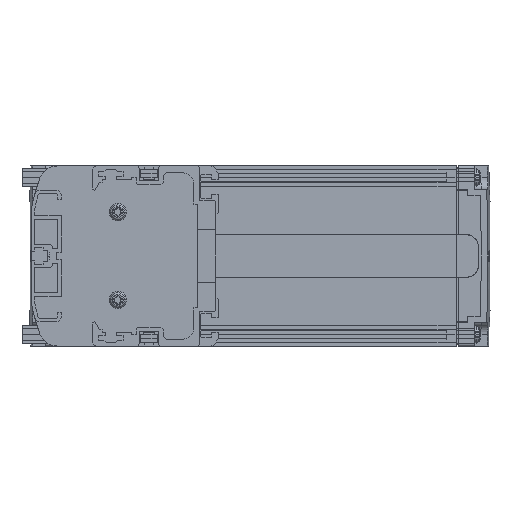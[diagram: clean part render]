
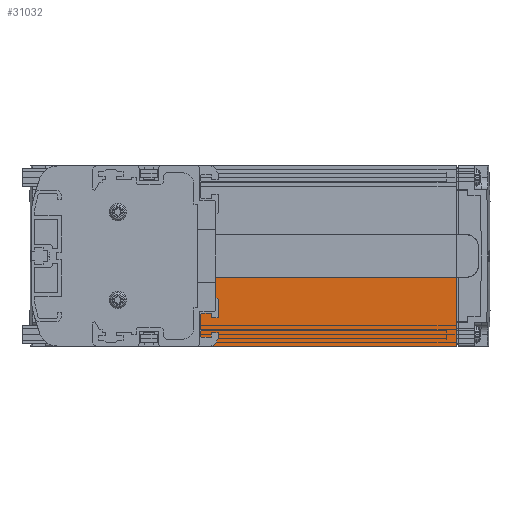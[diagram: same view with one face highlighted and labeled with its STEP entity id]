
A CAD part, left-side view. The second image highlights one B-rep face of the part: STEP entity #31032.
In plain terms, the highlighted planar face has unit normal (-1, 0, 0).
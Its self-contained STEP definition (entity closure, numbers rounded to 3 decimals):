
#3726=DIRECTION('',(0.,0.,1.));
#3727=VECTOR('',#3726,13.9);
#3728=CARTESIAN_POINT('',(3.,1.,-23.));
#3729=LINE('',#3728,#3727);
#4450=CARTESIAN_POINT('',(3.,2.,-23.));
#4451=DIRECTION('',(-1.,0.,0.));
#4452=DIRECTION('',(0.,0.,-1.));
#4453=AXIS2_PLACEMENT_3D('',#4450,#4451,#4452);
#4463=DIRECTION('',(0.,0.,1.));
#4464=VECTOR('',#4463,29.9);
#4465=CARTESIAN_POINT('',(3.,-103.,-39.));
#4466=LINE('',#4465,#4464);
#4483=DIRECTION('',(0.,1.,0.));
#4484=VECTOR('',#4483,104.);
#4485=CARTESIAN_POINT('',(3.,-103.,-9.1));
#4486=LINE('',#4485,#4484);
#8747=DIRECTION('',(0.,1.,0.));
#8748=VECTOR('',#8747,112.);
#8749=CARTESIAN_POINT('',(3.,-103.,-39.));
#8750=LINE('',#8749,#8748);
#9942=CARTESIAN_POINT('',(3.,9.,-38.));
#9943=DIRECTION('',(-1.,0.,0.));
#9944=DIRECTION('',(0.,0.,-1.));
#9945=AXIS2_PLACEMENT_3D('',#9942,#9943,#9944);
#9955=DIRECTION('',(0.,0.,-1.));
#9956=VECTOR('',#9955,14.);
#9957=CARTESIAN_POINT('',(3.,8.,-24.));
#9958=LINE('',#9957,#9956);
#9959=DIRECTION('',(0.,1.,0.));
#9960=VECTOR('',#9959,6.);
#9961=CARTESIAN_POINT('',(3.,2.,-24.));
#9962=LINE('',#9961,#9960);
#19992=CARTESIAN_POINT('',(3.,-103.,-39.));
#19993=VERTEX_POINT('',#19992);
#19994=CARTESIAN_POINT('',(3.,-103.,-9.1));
#19995=VERTEX_POINT('',#19994);
#24469=CARTESIAN_POINT('',(3.,1.,-23.));
#24470=CARTESIAN_POINT('',(3.,1.,-9.1));
#24471=VERTEX_POINT('',#24469);
#24472=VERTEX_POINT('',#24470);
#24517=CARTESIAN_POINT('',(3.,9.,-39.));
#24518=CARTESIAN_POINT('',(3.,8.,-38.));
#24519=VERTEX_POINT('',#24517);
#24520=VERTEX_POINT('',#24518);
#24521=CARTESIAN_POINT('',(3.,8.,-24.));
#24522=VERTEX_POINT('',#24521);
#24523=CARTESIAN_POINT('',(3.,2.,-24.));
#24524=VERTEX_POINT('',#24523);
#31011=CARTESIAN_POINT('',(3.,-18.,-24.05));
#31012=DIRECTION('',(1.,0.,0.));
#31013=DIRECTION('',(0.,0.,-1.));
#31014=AXIS2_PLACEMENT_3D('',#31011,#31012,#31013);
#31015=PLANE('',#31014);
#31016=ORIENTED_EDGE('',*,*,#28127,.T.);
#31018=ORIENTED_EDGE('',*,*,#31017,.F.);
#31020=ORIENTED_EDGE('',*,*,#31019,.F.);
#31022=ORIENTED_EDGE('',*,*,#31021,.T.);
#31024=ORIENTED_EDGE('',*,*,#31023,.T.);
#31026=ORIENTED_EDGE('',*,*,#31025,.F.);
#31028=ORIENTED_EDGE('',*,*,#31027,.F.);
#31029=ORIENTED_EDGE('',*,*,#31002,.T.);
#31030=EDGE_LOOP('',(#31016,#31018,#31020,#31022,#31024,#31026,#31028,#31029));
#31031=FACE_OUTER_BOUND('',#31030,.F.);
#31032=ADVANCED_FACE('',(#31031),#31015,.F.);
#4454=CIRCLE('',#4453,1.);
#9946=CIRCLE('',#9945,1.);
#28127=EDGE_CURVE('',#24471,#24472,#3729,.T.);
#31002=EDGE_CURVE('',#24524,#24471,#4454,.T.);
#31017=EDGE_CURVE('',#19995,#24472,#4486,.T.);
#31019=EDGE_CURVE('',#19993,#19995,#4466,.T.);
#31021=EDGE_CURVE('',#19993,#24519,#8750,.T.);
#31023=EDGE_CURVE('',#24519,#24520,#9946,.T.);
#31025=EDGE_CURVE('',#24522,#24520,#9958,.T.);
#31027=EDGE_CURVE('',#24524,#24522,#9962,.T.);
